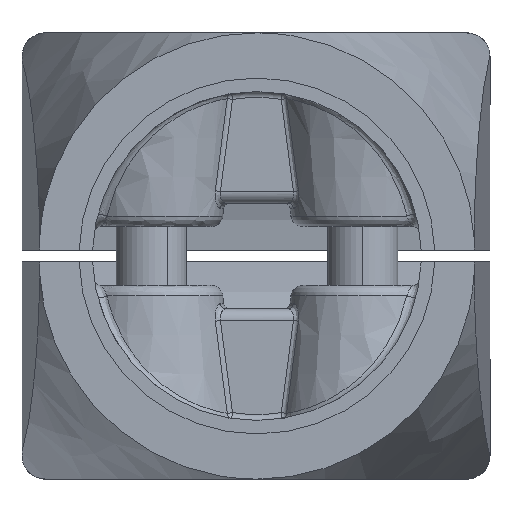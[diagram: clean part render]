
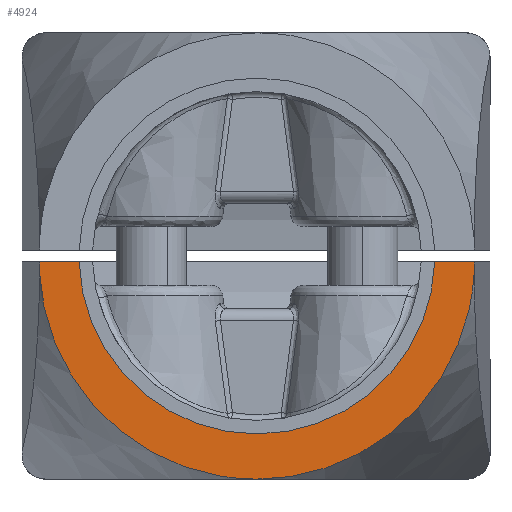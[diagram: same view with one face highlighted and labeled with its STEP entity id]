
A CAD part, front view. The second image highlights one B-rep face of the part: STEP entity #4924.
In plain terms, the highlighted planar face has unit normal (0, -1, 0).
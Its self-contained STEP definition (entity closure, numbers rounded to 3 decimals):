
#100 = CARTESIAN_POINT ( 'NONE',  ( -15.142, 0., 18.5 ) ) ;
#170 = CIRCLE ( 'NONE', #2209, 15.15 ) ;
#406 = CARTESIAN_POINT ( 'NONE',  ( -18.5, 0., 17.5 ) ) ;
#475 = VERTEX_POINT ( 'NONE', #10170 ) ;
#515 = CARTESIAN_POINT ( 'NONE',  ( 18.5, 0., 17.5 ) ) ;
#650 = CARTESIAN_POINT ( 'NONE',  ( 18.5, 0., 0. ) ) ;
#1178 = ORIENTED_EDGE ( 'NONE', *, *, #7581, .T. ) ;
#1198 = CARTESIAN_POINT ( 'NONE',  ( -18.5, 0., 17.5 ) ) ;
#1261 = EDGE_LOOP ( 'NONE', ( #1178, #6446, #1777, #6808, #11201, #2097, #4864 ) ) ;
#1377 = VECTOR ( 'NONE', #6862, 1000. ) ;
#1577 = CARTESIAN_POINT ( 'NONE',  ( 18.5, 0., 17.5 ) ) ;
#1657 = LINE ( 'NONE', #6626, #1377 ) ;
#1719 = DIRECTION ( 'NONE',  ( 0., 1., 0. ) ) ;
#1777 = ORIENTED_EDGE ( 'NONE', *, *, #3354, .T. ) ;
#2097 = ORIENTED_EDGE ( 'NONE', *, *, #3832, .T. ) ;
#2209 = AXIS2_PLACEMENT_3D ( 'NONE', #7844, #1719, #7806 ) ;
#2326 = CARTESIAN_POINT ( 'NONE',  ( 18.5, 0., 0. ) ) ;
#2404 = EDGE_CURVE ( 'NONE', #4750, #6045, #170, .T. ) ;
#3236 = LINE ( 'NONE', #650, #4605 ) ;
#3354 = EDGE_CURVE ( 'NONE', #6045, #3950, #1657, .T. ) ;
#3569 = CARTESIAN_POINT ( 'NONE',  ( 0., 0., 0. ) ) ;
#3650 = DIRECTION ( 'NONE',  ( -1., 0., 0. ) ) ;
#3832 = EDGE_CURVE ( 'NONE', #7782, #4872, #7155, .T. ) ;
#3950 = VERTEX_POINT ( 'NONE', #7127 ) ;
#4353 = EDGE_CURVE ( 'NONE', #3950, #7275, #5899, .T. ) ;
#4428 = FACE_OUTER_BOUND ( 'NONE', #1261, .T. ) ;
#4605 = VECTOR ( 'NONE', #9506, 1000. ) ;
#4750 = VERTEX_POINT ( 'NONE', #5653 ) ;
#4830 = DIRECTION ( 'NONE',  ( 1., 0., 0. ) ) ;
#4864 = ORIENTED_EDGE ( 'NONE', *, *, #7886, .F. ) ;
#4872 = VERTEX_POINT ( 'NONE', #515 ) ;
#4924 = ADVANCED_FACE ( 'NONE', ( #4428 ), #10116, .T. ) ;
#5634 =( BOUNDED_CURVE ( )  B_SPLINE_CURVE ( 2, ( #406, #6540, #3569 ),
 .UNSPECIFIED., .F., .T. ) 
 B_SPLINE_CURVE_WITH_KNOTS ( ( 3, 3 ),
 ( 0., 0.028 ),
 .UNSPECIFIED. ) 
 CURVE ( )  GEOMETRIC_REPRESENTATION_ITEM ( )  RATIONAL_B_SPLINE_CURVE ( ( 0.998, 0.725, 0.998 ) ) 
 REPRESENTATION_ITEM ( '' )  );
#5653 = CARTESIAN_POINT ( 'NONE',  ( 15.142, 0., 18.5 ) ) ;
#5675 = DIRECTION ( 'NONE',  ( 0., 0., -1. ) ) ;
#5816 = CARTESIAN_POINT ( 'NONE',  ( 0., 0., 0. ) ) ;
#5899 = LINE ( 'NONE', #10899, #8372 ) ;
#6045 = VERTEX_POINT ( 'NONE', #100 ) ;
#6199 = CARTESIAN_POINT ( 'NONE',  ( 18.5, 0., 18.5 ) ) ;
#6446 = ORIENTED_EDGE ( 'NONE', *, *, #2404, .T. ) ;
#6540 = CARTESIAN_POINT ( 'NONE',  ( -17.527, 0., 0. ) ) ;
#6626 = CARTESIAN_POINT ( 'NONE',  ( 18.5, 0., 18.5 ) ) ;
#6716 = CARTESIAN_POINT ( 'NONE',  ( 17.527, 0., 0. ) ) ;
#6808 = ORIENTED_EDGE ( 'NONE', *, *, #4353, .T. ) ;
#6862 = DIRECTION ( 'NONE',  ( -1., 0., 0. ) ) ;
#7110 = VECTOR ( 'NONE', #3650, 1000. ) ;
#7127 = CARTESIAN_POINT ( 'NONE',  ( -18.5, 0., 18.5 ) ) ;
#7155 =( BOUNDED_CURVE ( )  B_SPLINE_CURVE ( 2, ( #10360, #6716, #1577 ),
 .UNSPECIFIED., .F., .T. ) 
 B_SPLINE_CURVE_WITH_KNOTS ( ( 3, 3 ),
 ( 0., 0.028 ),
 .UNSPECIFIED. ) 
 CURVE ( )  GEOMETRIC_REPRESENTATION_ITEM ( )  RATIONAL_B_SPLINE_CURVE ( ( 0.998, 0.725, 0.998 ) ) 
 REPRESENTATION_ITEM ( '' )  );
#7275 = VERTEX_POINT ( 'NONE', #1198 ) ;
#7581 = EDGE_CURVE ( 'NONE', #475, #4750, #11105, .T. ) ;
#7782 = VERTEX_POINT ( 'NONE', #5816 ) ;
#7806 = DIRECTION ( 'NONE',  ( -1., 0., 0. ) ) ;
#7844 = CARTESIAN_POINT ( 'NONE',  ( 0., 0., 19. ) ) ;
#7886 = EDGE_CURVE ( 'NONE', #475, #4872, #3236, .T. ) ;
#8372 = VECTOR ( 'NONE', #5675, 1000. ) ;
#9506 = DIRECTION ( 'NONE',  ( 0., 0., -1. ) ) ;
#10116 = PLANE ( 'NONE',  #10679 ) ;
#10170 = CARTESIAN_POINT ( 'NONE',  ( 18.5, 0., 18.5 ) ) ;
#10276 = DIRECTION ( 'NONE',  ( 0., -1., 0. ) ) ;
#10360 = CARTESIAN_POINT ( 'NONE',  ( 0., 0., 0. ) ) ;
#10398 = EDGE_CURVE ( 'NONE', #7275, #7782, #5634, .T. ) ;
#10679 = AXIS2_PLACEMENT_3D ( 'NONE', #2326, #10276, #4830 ) ;
#10899 = CARTESIAN_POINT ( 'NONE',  ( -18.5, 0., 0. ) ) ;
#11105 = LINE ( 'NONE', #6199, #7110 ) ;
#11201 = ORIENTED_EDGE ( 'NONE', *, *, #10398, .T. ) ;
